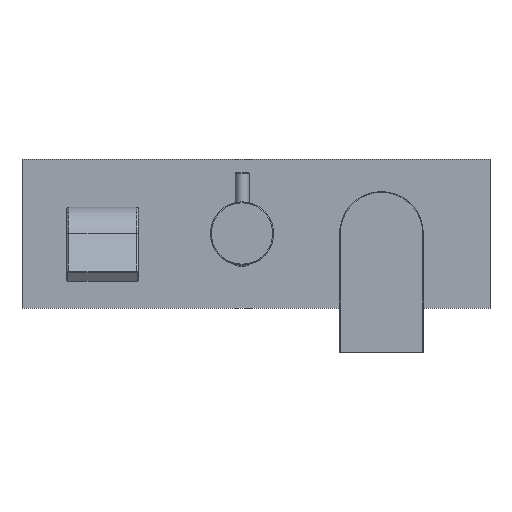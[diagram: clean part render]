
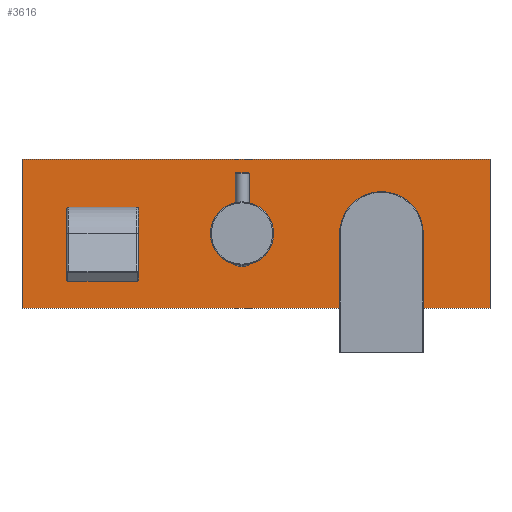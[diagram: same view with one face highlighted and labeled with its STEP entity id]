
A CAD part, top view. The second image highlights one B-rep face of the part: STEP entity #3616.
In plain terms, the highlighted planar face has unit normal (0, 0, 1).
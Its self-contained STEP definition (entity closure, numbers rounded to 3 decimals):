
#3501=DIRECTION('',(-1.,0.,0.));
#3502=VECTOR('',#3501,235.);
#3503=CARTESIAN_POINT('',(124.5,37.5,15.5));
#3504=LINE('',#3503,#3502);
#3505=DIRECTION('',(0.,1.,0.));
#3506=VECTOR('',#3505,75.);
#3507=CARTESIAN_POINT('',(124.5,-37.5,15.5));
#3508=LINE('',#3507,#3506);
#3509=DIRECTION('',(1.,0.,0.));
#3510=VECTOR('',#3509,235.);
#3511=CARTESIAN_POINT('',(-110.5,-37.5,15.5));
#3512=LINE('',#3511,#3510);
#3513=DIRECTION('',(0.,-1.,0.));
#3514=VECTOR('',#3513,75.);
#3515=CARTESIAN_POINT('',(-110.5,37.5,15.5));
#3516=LINE('',#3515,#3514);
#3525=CARTESIAN_POINT('',(124.5,37.5,15.5));
#3526=CARTESIAN_POINT('',(-110.5,37.5,15.5));
#3527=VERTEX_POINT('',#3525);
#3528=VERTEX_POINT('',#3526);
#3529=CARTESIAN_POINT('',(-110.5,-37.5,15.5));
#3530=CARTESIAN_POINT('',(124.5,-37.5,15.5));
#3531=VERTEX_POINT('',#3529);
#3532=VERTEX_POINT('',#3530);
#3605=CARTESIAN_POINT('',(7.,0.,15.5));
#3606=DIRECTION('',(0.,0.,1.));
#3607=DIRECTION('',(-1.,0.,0.));
#3608=AXIS2_PLACEMENT_3D('',#3605,#3606,#3607);
#3609=PLANE('',#3608);
#3610=ORIENTED_EDGE('',*,*,#3557,.F.);
#3611=ORIENTED_EDGE('',*,*,#3572,.F.);
#3612=ORIENTED_EDGE('',*,*,#3586,.F.);
#3613=ORIENTED_EDGE('',*,*,#3599,.F.);
#3614=EDGE_LOOP('',(#3610,#3611,#3612,#3613));
#3615=FACE_OUTER_BOUND('',#3614,.F.);
#3616=ADVANCED_FACE('',(#3615),#3609,.T.);
#3557=EDGE_CURVE('',#3527,#3528,#3504,.T.);
#3572=EDGE_CURVE('',#3532,#3527,#3508,.T.);
#3586=EDGE_CURVE('',#3531,#3532,#3512,.T.);
#3599=EDGE_CURVE('',#3528,#3531,#3516,.T.);
